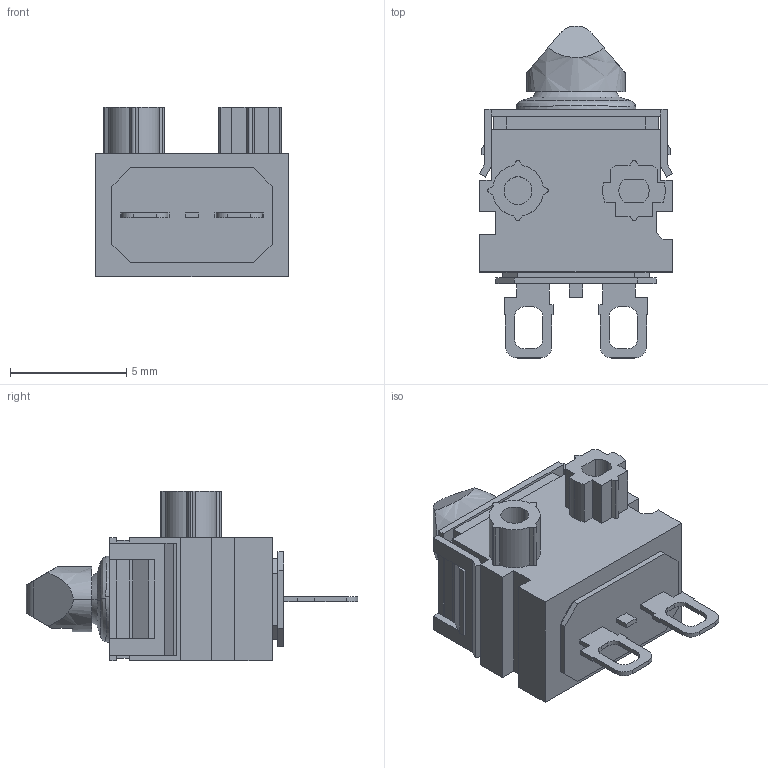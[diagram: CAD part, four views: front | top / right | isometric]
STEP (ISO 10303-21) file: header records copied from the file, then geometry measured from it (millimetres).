
FILE_DESCRIPTION (( 'STEP AP214' ), '1' );
FILE_NAME ('D2EW_B02H.step', '2023-02-17T07:53:41', ( 'OSMC1.0 ' ), ( ' ' ), 'SwSTEP 2.0', 'SolidWorks 2002025', '' );
FILE_SCHEMA (( 'AUTOMOTIVE_DESIGN' ));
Length unit declared in the file: millimetre
Products named in the file (3): D2EW_B02H; D2EW_B02H_BUTTON; D2EW_B02H_BASE
Assembly tree (2 placements, depth 2):
  D2EW_B02H
    D2EW_B02H_BASE
    D2EW_B02H_BUTTON
Bounding box: 8.3 x 14.3 x 7.3 mm (x, y, z)
Volume: 311.5 mm3; surface area: 514.2 mm2
Topology: 2 solids, 2 shells, 215 faces, 598 edges, 392 vertices
Faces by surface type: plane 169, cylinder 34, bspline 12
Entity records: 10672 total; most frequent: CARTESIAN_POINT 3964, ORIENTED_EDGE 1196, DIRECTION 1044, EDGE_CURVE 598, LINE 492, VECTOR 492, VERTEX_POINT 392, AXIS2_PLACEMENT_3D 276
